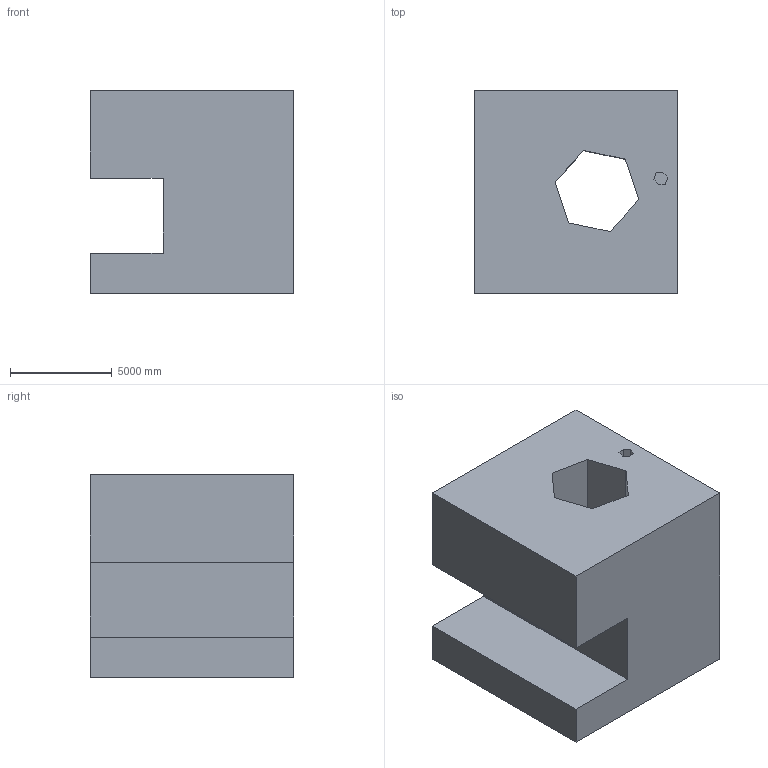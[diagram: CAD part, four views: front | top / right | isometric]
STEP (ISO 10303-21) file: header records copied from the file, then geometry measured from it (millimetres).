
FILE_DESCRIPTION (( 'STEP AP203' ), '1' );
FILE_NAME ('21.STEP', '2022-09-02T13:42:17', ( 'user' ), ( '' ), 'SwSTEP 2.0', 'SolidWorks 2021', '' );
FILE_SCHEMA (( 'CONFIG_CONTROL_DESIGN' ));
Length unit declared in the file: centimetre
Products named in the file (1): 21
Bounding box: 10000 x 10000 x 10000 mm (x, y, z)
Volume: 752883747597.4 mm3; surface area: 750495148.1 mm2
Topology: 1 solids, 1 shells, 23 faces, 60 edges, 40 vertices
Faces by surface type: plane 23
Entity records: 775 total; most frequent: CARTESIAN_POINT 124, ORIENTED_EDGE 120, DIRECTION 108, LINE 60, VECTOR 60, EDGE_CURVE 60, VERTEX_POINT 40, EDGE_LOOP 26
